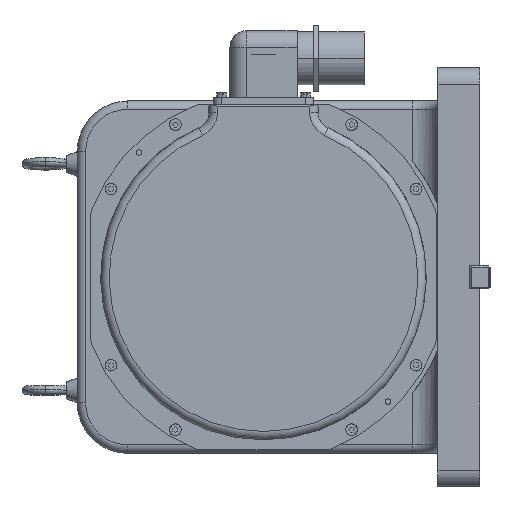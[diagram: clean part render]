
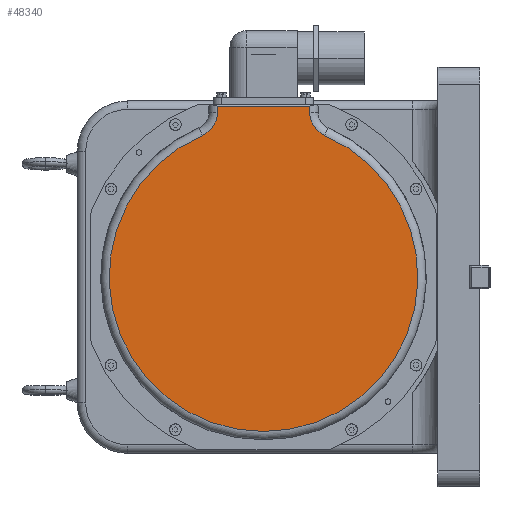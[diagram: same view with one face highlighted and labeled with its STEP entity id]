
A CAD part, left-side view. The second image highlights one B-rep face of the part: STEP entity #48340.
In plain terms, the highlighted planar face has unit normal (-1, 0, 0).
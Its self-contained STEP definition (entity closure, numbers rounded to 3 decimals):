
#205 = AXIS2_PLACEMENT_3D ( 'NONE', #87734, #88374, #127992 ) ;
#2697 = DIRECTION ( 'NONE',  ( 1., 0., 0. ) ) ;
#9645 = CARTESIAN_POINT ( 'NONE',  ( -315., 129., 102. ) ) ;
#14208 = CARTESIAN_POINT ( 'NONE',  ( -315., 101.5, 102. ) ) ;
#19296 = EDGE_CURVE ( 'NONE', #66925, #67522, #64924, .T. ) ;
#22659 = ORIENTED_EDGE ( 'NONE', *, *, #91774, .T. ) ;
#23802 = VERTEX_POINT ( 'NONE', #42349 ) ;
#27663 = CARTESIAN_POINT ( 'NONE',  ( -315., 101.5, 98.198 ) ) ;
#30876 = EDGE_CURVE ( 'NONE', #101549, #59545, #35192, .T. ) ;
#32352 = CARTESIAN_POINT ( 'NONE',  ( -315., 165.542, 84.431 ) ) ;
#33299 = ORIENTED_EDGE ( 'NONE', *, *, #19296, .T. ) ;
#33909 = LINE ( 'NONE', #95681, #96599 ) ;
#34400 = EDGE_CURVE ( 'NONE', #59545, #66925, #124069, .T. ) ;
#35192 = CIRCLE ( 'NONE', #205, 92. ) ;
#35372 = EDGE_LOOP ( 'NONE', ( #125741, #33299, #54779, #22659, #122307, #78660 ) ) ;
#35506 = EDGE_CURVE ( 'NONE', #67522, #99456, #77887, .T. ) ;
#36424 = DIRECTION ( 'NONE',  ( 0., 0., -1. ) ) ;
#42349 = CARTESIAN_POINT ( 'NONE',  ( -315., 156.5, 98.198 ) ) ;
#46372 = CARTESIAN_POINT ( 'NONE',  ( -315., 92.458, 84.431 ) ) ;
#46449 = CARTESIAN_POINT ( 'NONE',  ( -315., 86.5, 98.198 ) ) ;
#48340 = ADVANCED_FACE ( 'NONE', ( #83355 ), #61305, .F. ) ;
#50900 = AXIS2_PLACEMENT_3D ( 'NONE', #94741, #84948, #114857 ) ;
#54779 = ORIENTED_EDGE ( 'NONE', *, *, #35506, .T. ) ;
#55601 = AXIS2_PLACEMENT_3D ( 'NONE', #46449, #116696, #86162 ) ;
#58396 = EDGE_CURVE ( 'NONE', #23802, #101549, #111174, .T. ) ;
#59545 = VERTEX_POINT ( 'NONE', #46372 ) ;
#61305 = PLANE ( 'NONE',  #112290 ) ;
#62593 = DIRECTION ( 'NONE',  ( 0., 0., 1. ) ) ;
#63665 = CARTESIAN_POINT ( 'NONE',  ( -315., 101.5, 102. ) ) ;
#64924 = LINE ( 'NONE', #63665, #120391 ) ;
#66925 = VERTEX_POINT ( 'NONE', #27663 ) ;
#67385 = CARTESIAN_POINT ( 'NONE',  ( -315., 156.5, 102. ) ) ;
#67522 = VERTEX_POINT ( 'NONE', #14208 ) ;
#77887 = LINE ( 'NONE', #9645, #99376 ) ;
#78660 = ORIENTED_EDGE ( 'NONE', *, *, #30876, .T. ) ;
#83355 = FACE_OUTER_BOUND ( 'NONE', #35372, .T. ) ;
#84948 = DIRECTION ( 'NONE',  ( 1., 0., 0. ) ) ;
#86162 = DIRECTION ( 'NONE',  ( 0., 0., 1. ) ) ;
#87110 = DIRECTION ( 'NONE',  ( 0., 1., 0. ) ) ;
#87734 = CARTESIAN_POINT ( 'NONE',  ( -315., 129., 0. ) ) ;
#88374 = DIRECTION ( 'NONE',  ( -1., 0., 0. ) ) ;
#91774 = EDGE_CURVE ( 'NONE', #99456, #23802, #33909, .T. ) ;
#92537 = CARTESIAN_POINT ( 'NONE',  ( -315., 129., -97. ) ) ;
#94741 = CARTESIAN_POINT ( 'NONE',  ( -315., 171.5, 98.198 ) ) ;
#95681 = CARTESIAN_POINT ( 'NONE',  ( -315., 156.5, 98.198 ) ) ;
#96599 = VECTOR ( 'NONE', #36424, 1000. ) ;
#99376 = VECTOR ( 'NONE', #87110, 1000. ) ;
#99456 = VERTEX_POINT ( 'NONE', #67385 ) ;
#101549 = VERTEX_POINT ( 'NONE', #32352 ) ;
#103424 = DIRECTION ( 'NONE',  ( 0., 0., 1. ) ) ;
#111174 = CIRCLE ( 'NONE', #50900, 15. ) ;
#112290 = AXIS2_PLACEMENT_3D ( 'NONE', #92537, #2697, #62593 ) ;
#114857 = DIRECTION ( 'NONE',  ( 0., 0., 1. ) ) ;
#116696 = DIRECTION ( 'NONE',  ( 1., 0., 0. ) ) ;
#120391 = VECTOR ( 'NONE', #103424, 1000. ) ;
#122307 = ORIENTED_EDGE ( 'NONE', *, *, #58396, .T. ) ;
#124069 = CIRCLE ( 'NONE', #55601, 15. ) ;
#125741 = ORIENTED_EDGE ( 'NONE', *, *, #34400, .T. ) ;
#127992 = DIRECTION ( 'NONE',  ( 0., 0., 1. ) ) ;
